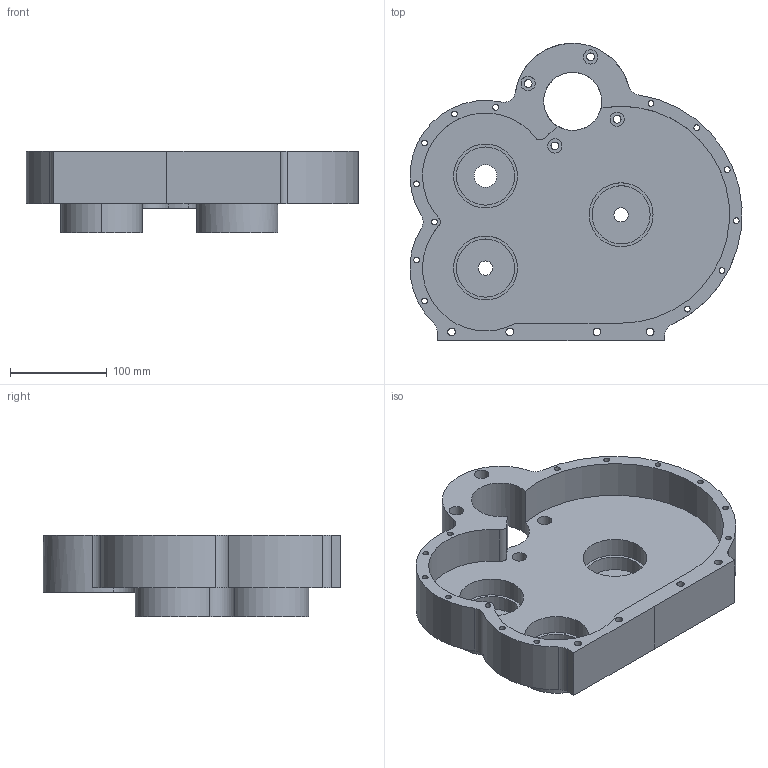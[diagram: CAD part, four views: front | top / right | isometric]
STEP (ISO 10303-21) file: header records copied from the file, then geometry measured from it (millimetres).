
FILE_DESCRIPTION( ( 'STEP AP203' ), '1' );
FILE_NAME( 'C:/Dokumente und Einstellungen/WG.DATOSLAN/Eigene Dateien/WG-Technik/Esprit-Kopie/In-Arbeit/Side-Frame.step', ' ', ( ' ' ), ( ' ' ), 'XStep 1.0', 'Esprit', ' ' );
FILE_SCHEMA( ( 'CONFIG_CONTROL_DESIGN' ) );
Length unit declared in the file: metre
Products named in the file (1): 1
Bounding box: 342.72 x 307 x 84 mm (x, y, z)
Volume: 1976113 mm3; surface area: 330433.4 mm2
Topology: 1 solids, 1 shells, 85 faces, 222 edges, 150 vertices
Faces by surface type: cylinder 63, plane 22
Full cylindrical faces by diameter (mm): 6 x13, 8 x8, 14.8 x6, 23.5 x1, 60 x4, 66 x3, 80 x1, 84 x1
Entity records: 2602 total; most frequent: DIRECTION 484, CARTESIAN_POINT 409, ORIENTED_EDGE 358, AXIS2_PLACEMENT_3D 219, EDGE_LOOP 183, EDGE_CURVE 179, VERTEX_POINT 144, CIRCLE 133
